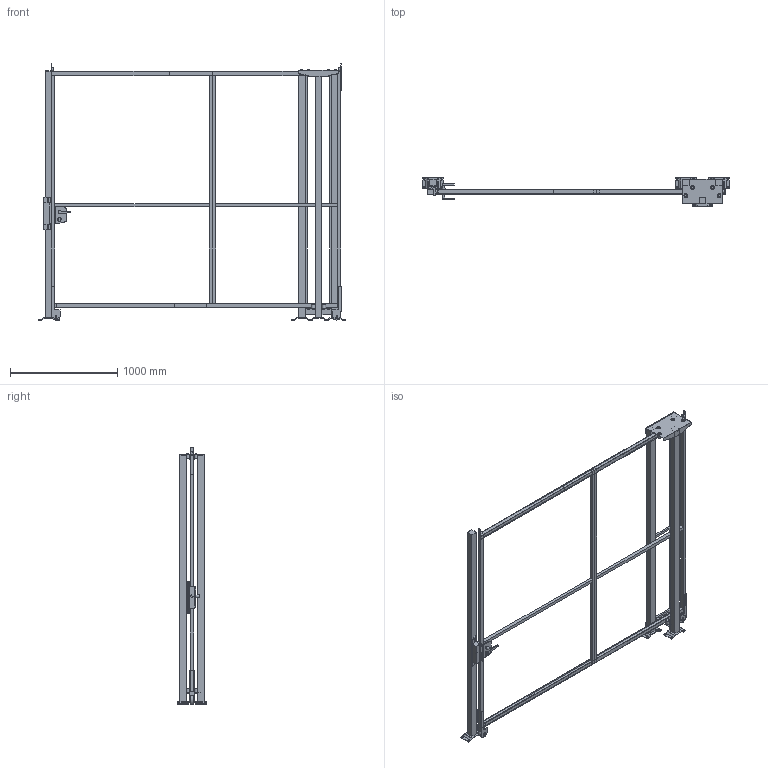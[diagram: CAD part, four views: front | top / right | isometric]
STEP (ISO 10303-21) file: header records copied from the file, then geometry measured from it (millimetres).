
FILE_DESCRIPTION(/* description */ (''),/* implementation_level */ '2;1');
FILE_NAME(/* name */ 'C:\SafeGuarding\ELABORATI\KLADKOUGAMMA_2025-03-21-09-57-53.stp',/* time_stamp */ '2025-03-21T09:57:57+01:00',/* author */ ('admin'),/* organization */ (''),/* preprocessor_version */ 'ST-DEVELOPER v18.1',/* originating_system */ 'AutoCAD Mechanical',/* authorisation */ '');
FILE_SCHEMA (('AUTOMOTIVE_DESIGN { 1 0 10303 214 3 1 1 }'));
Length unit declared in the file: millimetre
Products named in the file (5): Product; R_VFPA.REPE30.12002200; R_VFPA.REPE30.15002200; R_VFPA.REPE20.02502200; P_VFMA.V260SDU.2320
Assembly tree (7 placements, depth 2):
  Product
    R_VFPA.REPE30.12002200
    R_VFPA.REPE30.15002200
    P_VFMA.V260SDU.2320  x4
    R_VFPA.REPE20.02502200
Bounding box: 2861.92 x 264 x 2390.02 mm (x, y, z)
Volume: 54853157.4 mm3; surface area: 7116288.9 mm2
Topology: 67 solids, 67 shells, 602 faces, 1761 edges, 1754 vertices
Faces by surface type: plane 524, cylinder 74, bspline 4
Full cylindrical faces by diameter (mm): 9 x4, 11 x16, 13 x4, 18 x1, 25 x2, 25.398 x2, 30 x6, 36 x8, 80 x2
Entity records: 18209 total; most frequent: CARTESIAN_POINT 4757, DIRECTION 2681, ORIENTED_EDGE 2350, LINE 1241, VECTOR 1241, EDGE_CURVE 1175, VERTEX_POINT 790, AXIS2_PLACEMENT_3D 720
